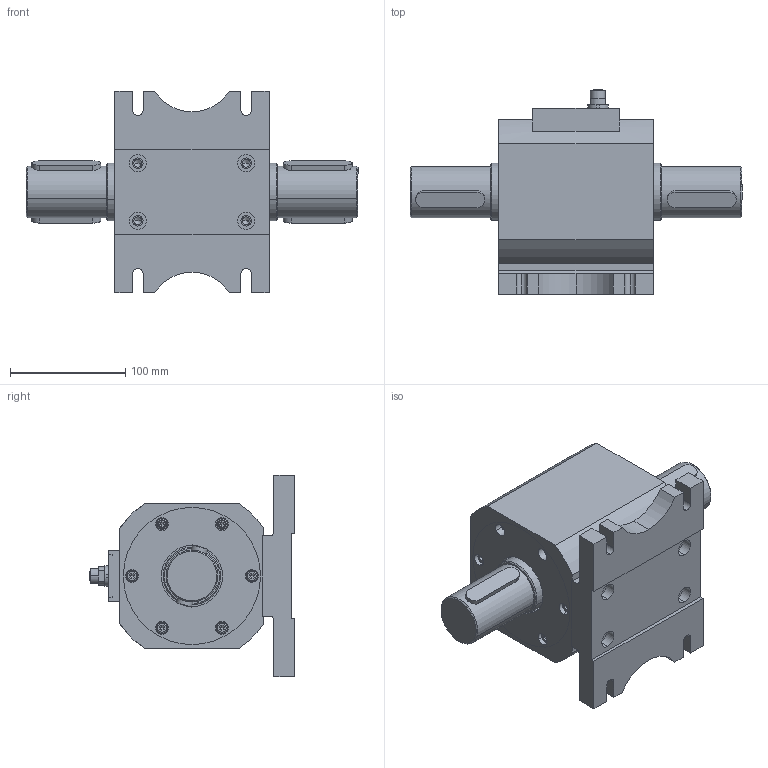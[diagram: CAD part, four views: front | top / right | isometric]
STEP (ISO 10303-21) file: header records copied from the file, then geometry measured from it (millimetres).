
FILE_DESCRIPTION (( 'STEP AP203' ), '1' );
FILE_NAME ('RTS03-1000Nm.STEP', '2026-03-16T10:52:13', ( '' ), ( '' ), 'SwSTEP 2.0', 'SolidWorks 2019', '' );
FILE_SCHEMA (( 'CONFIG_CONTROL_DESIGN' ));
Length unit declared in the file: millimetre
Products named in the file (1): RTS03-1000Nm
Bounding box: 288 x 177.9 x 175 mm (x, y, z)
Volume: 2113285.9 mm3; surface area: 318505.2 mm2
Topology: 22 solids, 22 shells, 925 faces, 2084 edges, 1273 vertices
Faces by surface type: plane 409, cylinder 348, cone 130, torus 38
Entity records: 26532 total; most frequent: CARTESIAN_POINT 5314, DIRECTION 4690, ORIENTED_EDGE 4064, EDGE_CURVE 2032, AXIS2_PLACEMENT_3D 1778, VERTEX_POINT 1273, VECTOR 1134, LINE 1134
